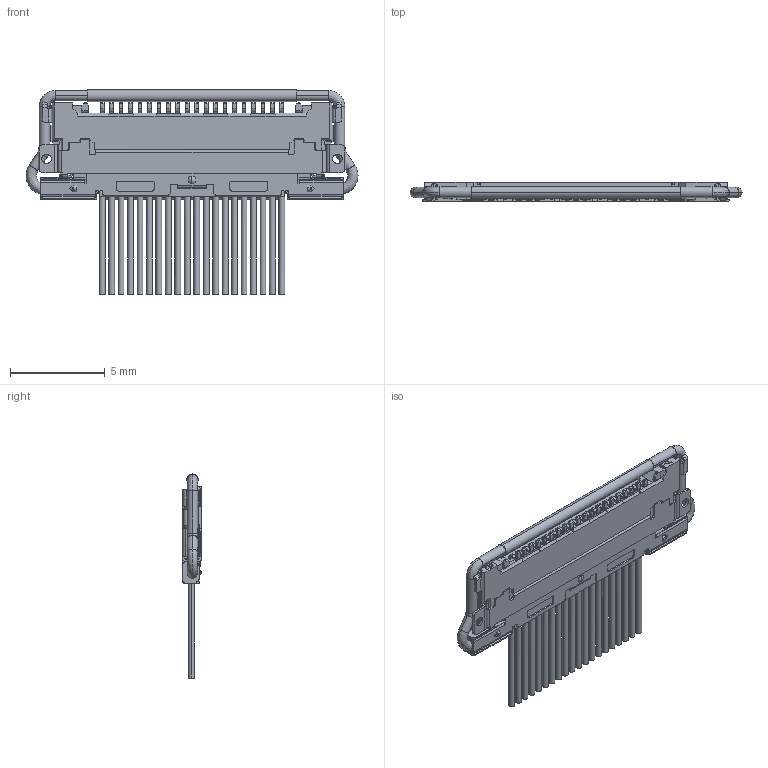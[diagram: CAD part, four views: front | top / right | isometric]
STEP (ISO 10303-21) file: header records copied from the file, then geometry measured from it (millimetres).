
FILE_DESCRIPTION (( 'STEP AP203' ), '1' );
FILE_NAME ('20455-A20E-xx+20453-x20T-x3.STEP', '2020-12-16T04:14:34', ( '' ), ( '' ), 'SwSTEP 2.0', 'SolidWorks 2017', '' );
FILE_SCHEMA (( 'CONFIG_CONTROL_DESIGN' ));
Length unit declared in the file: millimetre
Products named in the file (1): 20455-A20E-xx+20453-x20T-x3
Bounding box: 17.55 x 1 x 10.79 mm (x, y, z)
Volume: 78.1 mm3; surface area: 383.3 mm2
Topology: 2 solids, 3 shells, 1566 faces, 4373 edges, 2857 vertices
Faces by surface type: plane 966, cylinder 508, bspline 52, cone 34, sphere 6
Entity records: 51971 total; most frequent: CARTESIAN_POINT 11840, ORIENTED_EDGE 8740, DIRECTION 7884, EDGE_CURVE 4370, LINE 3098, VECTOR 3098, VERTEX_POINT 2857, AXIS2_PLACEMENT_3D 2393
